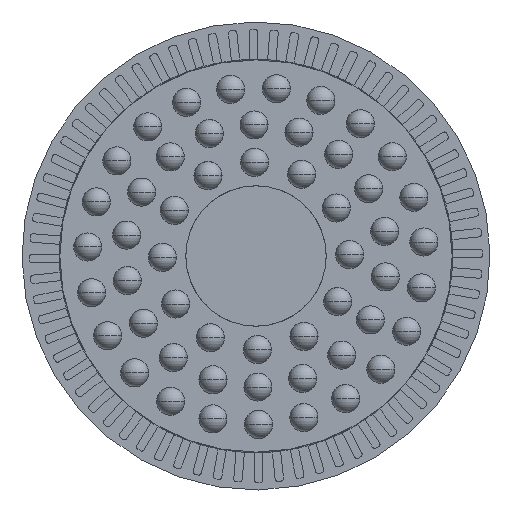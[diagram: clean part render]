
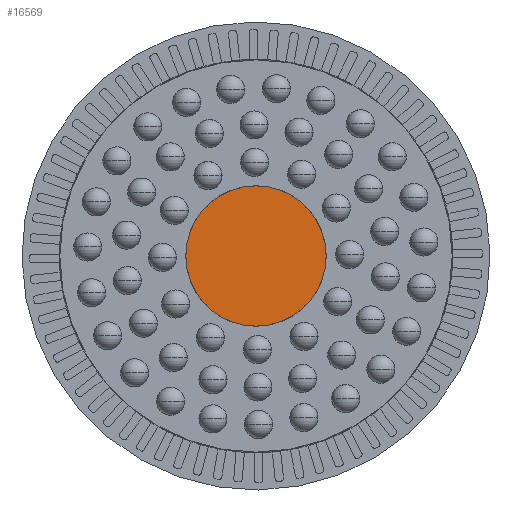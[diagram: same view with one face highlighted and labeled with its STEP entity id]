
A CAD part, front view. The second image highlights one B-rep face of the part: STEP entity #16569.
In plain terms, the highlighted planar face has unit normal (0, -1, 0) as drawn and (0, 0, -1) by its records, which use the part's own axes.
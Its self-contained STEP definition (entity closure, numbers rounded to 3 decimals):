
#1130 = CARTESIAN_POINT ( 'NONE',  ( -7.5, 0., 0. ) ) ;
#1178 = ORIENTED_EDGE ( 'NONE', *, *, #20362, .T. ) ;
#2871 = AXIS2_PLACEMENT_3D ( 'NONE', #8236, #20050, #9942 ) ;
#5446 = EDGE_LOOP ( 'NONE', ( #1178, #13436 ) ) ;
#5456 = DIRECTION ( 'NONE',  ( 0., 0., -1. ) ) ;
#6399 = DIRECTION ( 'NONE',  ( 0., 0., 1. ) ) ;
#8236 = CARTESIAN_POINT ( 'NONE',  ( 0., 0., 0. ) ) ;
#9304 = FACE_OUTER_BOUND ( 'NONE', #5446, .T. ) ;
#9660 = CARTESIAN_POINT ( 'NONE',  ( 0., 0., 0. ) ) ;
#9942 = DIRECTION ( 'NONE',  ( -1., 0., 0. ) ) ;
#10347 = VERTEX_POINT ( 'NONE', #18825 ) ;
#12241 = EDGE_CURVE ( 'NONE', #10347, #18922, #16600, .T. ) ;
#13115 = PLANE ( 'NONE',  #20234 ) ;
#13436 = ORIENTED_EDGE ( 'NONE', *, *, #12241, .T. ) ;
#15592 = CARTESIAN_POINT ( 'NONE',  ( 0., 0., 0. ) ) ;
#16569 = ADVANCED_FACE ( 'NONE', ( #9304 ), #13115, .F. ) ;
#16600 = CIRCLE ( 'NONE', #2871, 7.5 ) ;
#17294 = DIRECTION ( 'NONE',  ( -1., 0., 0. ) ) ;
#17731 = AXIS2_PLACEMENT_3D ( 'NONE', #15592, #5456, #17294 ) ;
#18235 = DIRECTION ( 'NONE',  ( 1., 0., 0. ) ) ;
#18256 = CIRCLE ( 'NONE', #17731, 7.5 ) ;
#18825 = CARTESIAN_POINT ( 'NONE',  ( 7.5, 0., 0. ) ) ;
#18922 = VERTEX_POINT ( 'NONE', #1130 ) ;
#20050 = DIRECTION ( 'NONE',  ( 0., 0., -1. ) ) ;
#20234 = AXIS2_PLACEMENT_3D ( 'NONE', #9660, #6399, #18235 ) ;
#20362 = EDGE_CURVE ( 'NONE', #18922, #10347, #18256, .T. ) ;
